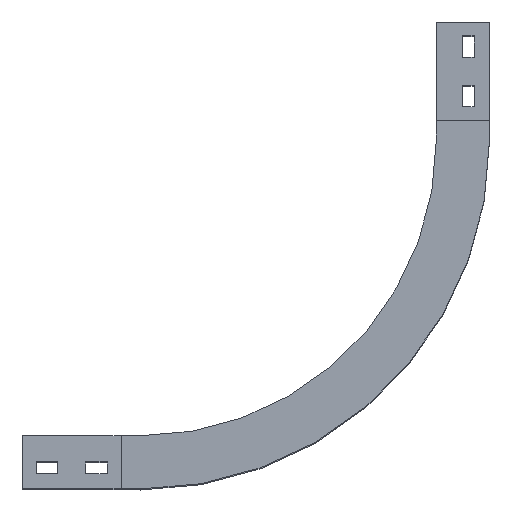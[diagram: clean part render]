
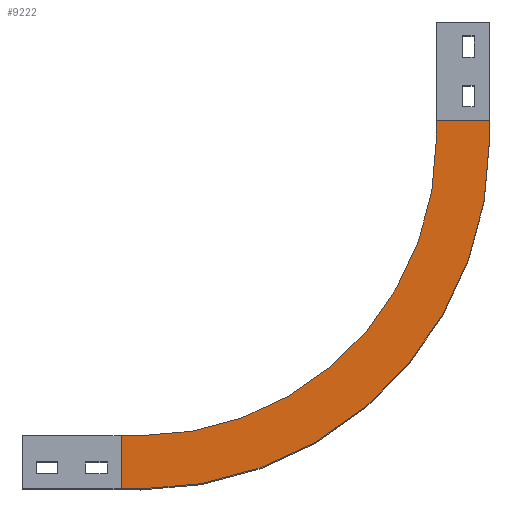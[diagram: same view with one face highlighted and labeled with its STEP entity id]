
A CAD part, top view. The second image highlights one B-rep face of the part: STEP entity #9222.
In plain terms, the highlighted planar face has unit normal (0, 0, 1).
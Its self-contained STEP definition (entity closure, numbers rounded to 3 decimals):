
#629=CIRCLE('',#9885,354.);
#630=CIRCLE('',#9886,300.);
#1262=FACE_OUTER_BOUND('',#1894,.T.);
#1894=EDGE_LOOP('',(#8449,#8450,#8451,#8452,#8453,#8454,#8455,#8456));
#2789=LINE('',#20288,#3705);
#2793=LINE('',#20296,#3709);
#2794=LINE('',#20300,#3710);
#2795=LINE('',#20302,#3711);
#2796=LINE('',#20304,#3712);
#2797=LINE('',#20307,#3713);
#3705=VECTOR('',#12067,304.8);
#3709=VECTOR('',#12073,304.8);
#3710=VECTOR('',#12076,304.8);
#3711=VECTOR('',#12077,304.8);
#3712=VECTOR('',#12078,304.8);
#3713=VECTOR('',#12081,304.8);
#4585=VERTEX_POINT('',#20286);
#4586=VERTEX_POINT('',#20287);
#4589=VERTEX_POINT('',#20295);
#4590=VERTEX_POINT('',#20297);
#4591=VERTEX_POINT('',#20299);
#4592=VERTEX_POINT('',#20301);
#4593=VERTEX_POINT('',#20303);
#4594=VERTEX_POINT('',#20305);
#5877=EDGE_CURVE('',#4585,#4586,#2789,.T.);
#5881=EDGE_CURVE('',#4585,#4589,#2793,.T.);
#5882=EDGE_CURVE('',#4589,#4590,#629,.T.);
#5883=EDGE_CURVE('',#4590,#4591,#2794,.T.);
#5884=EDGE_CURVE('',#4591,#4592,#2795,.T.);
#5885=EDGE_CURVE('',#4592,#4593,#2796,.T.);
#5886=EDGE_CURVE('',#4593,#4594,#630,.T.);
#5887=EDGE_CURVE('',#4594,#4586,#2797,.T.);
#8449=ORIENTED_EDGE('',*,*,#5877,.F.);
#8450=ORIENTED_EDGE('',*,*,#5881,.T.);
#8451=ORIENTED_EDGE('',*,*,#5882,.T.);
#8452=ORIENTED_EDGE('',*,*,#5883,.T.);
#8453=ORIENTED_EDGE('',*,*,#5884,.T.);
#8454=ORIENTED_EDGE('',*,*,#5885,.T.);
#8455=ORIENTED_EDGE('',*,*,#5886,.T.);
#8456=ORIENTED_EDGE('',*,*,#5887,.T.);
#8778=PLANE('',#9884);
#9222=ADVANCED_FACE('',(#1262),#8778,.T.);
#9884=AXIS2_PLACEMENT_3D('',#20294,#12071,#12072);
#9885=AXIS2_PLACEMENT_3D('',#20298,#12074,#12075);
#9886=AXIS2_PLACEMENT_3D('',#20306,#12079,#12080);
#12067=DIRECTION('',(0.,1.,0.));
#12071=DIRECTION('center_axis',(0.,0.,
1.));
#12072=DIRECTION('ref_axis',(1.,0.,0.));
#12073=DIRECTION('',(1.,0.,0.));
#12074=DIRECTION('center_axis',(0.,0.,1.));
#12075=DIRECTION('ref_axis',(0.,-1.,0.));
#12076=DIRECTION('',(0.,1.,0.));
#12077=DIRECTION('',(-1.,0.,0.));
#12078=DIRECTION('',(0.,-1.,0.));
#12079=DIRECTION('center_axis',(0.,0.,-1.));
#12080=DIRECTION('ref_axis',(0.,-1.,0.));
#12081=DIRECTION('',(-1.,0.,0.));
#20286=CARTESIAN_POINT('',(-347.,-27.,305.5));
#20287=CARTESIAN_POINT('',(-347.,27.,305.5));
#20288=CARTESIAN_POINT('',(-347.,-27.,305.5));
#20294=CARTESIAN_POINT('Origin',(-347.,-27.,305.5));
#20295=CARTESIAN_POINT('',(-327.,-27.,305.5));
#20296=CARTESIAN_POINT('',(-347.,-27.,305.5));
#20297=CARTESIAN_POINT('',(27.,327.,305.5));
#20298=CARTESIAN_POINT('Origin',(-327.,327.,305.5));
#20299=CARTESIAN_POINT('',(27.,347.,305.5));
#20300=CARTESIAN_POINT('',(27.,327.,305.5));
#20301=CARTESIAN_POINT('',(-27.,347.,305.5));
#20302=CARTESIAN_POINT('',(-27.,347.,305.5));
#20303=CARTESIAN_POINT('',(-27.,327.,305.5));
#20304=CARTESIAN_POINT('',(-27.,327.,305.5));
#20305=CARTESIAN_POINT('',(-327.,27.,305.5));
#20306=CARTESIAN_POINT('Origin',(-327.,327.,305.5));
#20307=CARTESIAN_POINT('',(-347.,27.,305.5));
